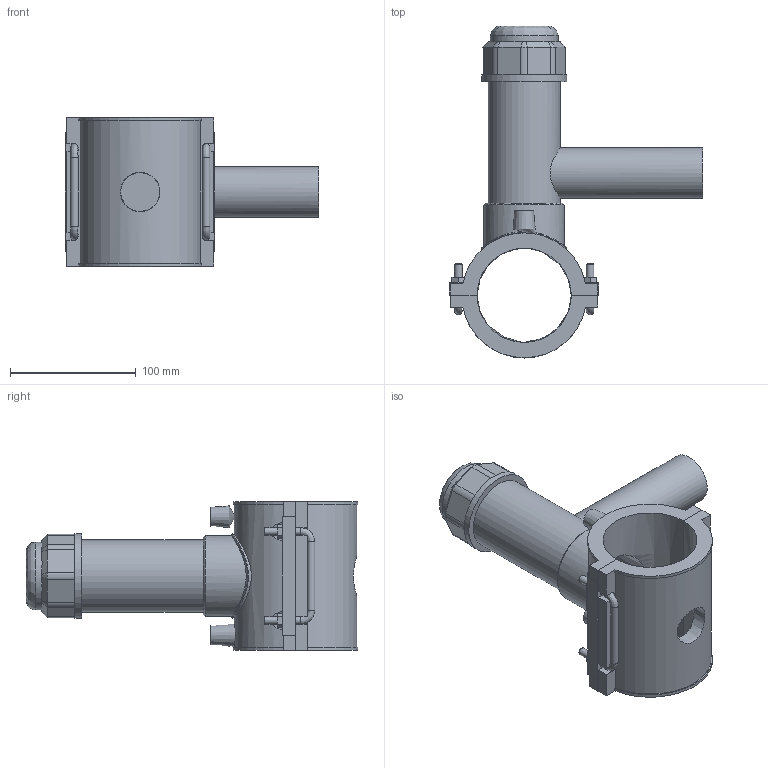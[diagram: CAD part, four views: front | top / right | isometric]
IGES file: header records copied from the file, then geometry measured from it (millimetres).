
Global section: file name: 496304075040.ipt; native system: Autodesk Inventor 2015; preprocessor: unknown; author: KIM; date: 20190124.130713; units: millimetre
Bounding box: 201.5 x 264.23 x 118 mm (x, y, z)
Volume: 691398.6 mm3; surface area: 172627.9 mm2
Topology: 2 solids, 2 shells, 192 faces, 495 edges, 323 vertices
Faces by surface type: plane 118, cylinder 34, revolution 20, cone 15, bspline 5
Full cylindrical faces by diameter (mm): 4 x2, 6 x10, 40 x1, 54 x1, 57.375 x1, 64.125 x1, 67.5 x2
